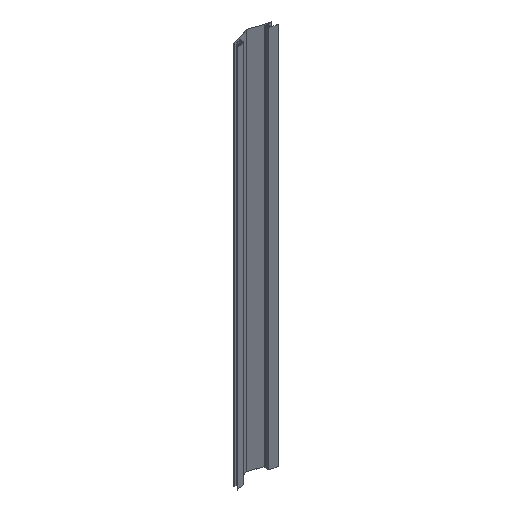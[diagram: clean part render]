
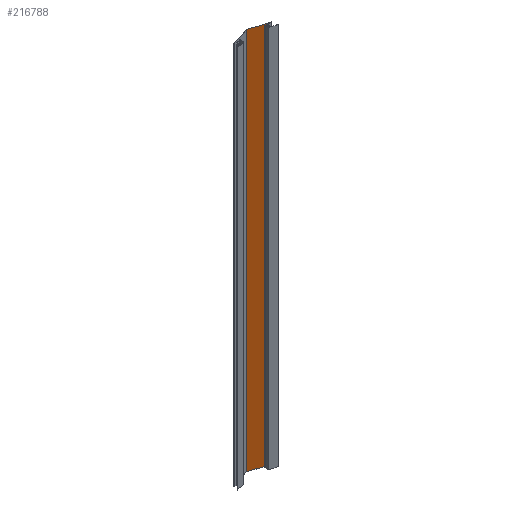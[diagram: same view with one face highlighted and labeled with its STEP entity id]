
A CAD part, isometric view. The second image highlights one B-rep face of the part: STEP entity #216788.
In plain terms, the highlighted planar face has unit normal (-0.297, -0.955, 0).
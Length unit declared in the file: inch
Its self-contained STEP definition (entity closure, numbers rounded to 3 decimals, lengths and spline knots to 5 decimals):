
#8270 = CARTESIAN_POINT ( 'NONE',  ( 5.87643, -1.8482, 0.71674 ) ) ;
#11255 = EDGE_CURVE ( 'NONE', #78496, #134539, #137980, .T. ) ;
#25030 = LINE ( 'NONE', #192481, #31142 ) ;
#31142 = VECTOR ( 'NONE', #95210, 39.37008 ) ;
#33931 = ORIENTED_EDGE ( 'NONE', *, *, #11255, .T. ) ;
#35636 = CARTESIAN_POINT ( 'NONE',  ( 5.87643, -1.8482, 125. ) ) ;
#53893 = VECTOR ( 'NONE', #152402, 39.37008 ) ;
#63294 = CARTESIAN_POINT ( 'NONE',  ( 0.00341, -0.02201, 0.71674 ) ) ;
#65936 = DIRECTION ( 'NONE',  ( -0.297, -0.955, 0. ) ) ;
#73755 = EDGE_CURVE ( 'NONE', #229869, #137888, #197331, .T. ) ;
#73838 = VECTOR ( 'NONE', #149891, 39.37008 ) ;
#78496 = VERTEX_POINT ( 'NONE', #209352 ) ;
#92530 = VECTOR ( 'NONE', #238179, 39.37008 ) ;
#95210 = DIRECTION ( 'NONE',  ( 0.955, -0.297, 0. ) ) ;
#98645 = ORIENTED_EDGE ( 'NONE', *, *, #157187, .F. ) ;
#110549 = CARTESIAN_POINT ( 'NONE',  ( 5.87643, -1.8482, 120.71674 ) ) ;
#134539 = VERTEX_POINT ( 'NONE', #236266 ) ;
#137888 = VERTEX_POINT ( 'NONE', #8270 ) ;
#137980 = LINE ( 'NONE', #227658, #73838 ) ;
#143452 = PLANE ( 'NONE',  #163732 ) ;
#149891 = DIRECTION ( 'NONE',  ( 0., 0., -1. ) ) ;
#152402 = DIRECTION ( 'NONE',  ( 0., 0., -1. ) ) ;
#156527 = EDGE_CURVE ( 'NONE', #137888, #134539, #242191, .T. ) ;
#157187 = EDGE_CURVE ( 'NONE', #78496, #229869, #25030, .T. ) ;
#163732 = AXIS2_PLACEMENT_3D ( 'NONE', #182815, #65936, #202371 ) ;
#169396 = EDGE_LOOP ( 'NONE', ( #98645, #33931, #218620, #179723 ) ) ;
#179723 = ORIENTED_EDGE ( 'NONE', *, *, #73755, .F. ) ;
#182815 = CARTESIAN_POINT ( 'NONE',  ( 0.00341, -0.02201, 125. ) ) ;
#192481 = CARTESIAN_POINT ( 'NONE',  ( 0.00341, -0.02201, 120.71674 ) ) ;
#197331 = LINE ( 'NONE', #35636, #53893 ) ;
#202371 = DIRECTION ( 'NONE',  ( 0.955, -0.297, 0. ) ) ;
#209352 = CARTESIAN_POINT ( 'NONE',  ( 0.00341, -0.02201, 120.71674 ) ) ;
#216788 = ADVANCED_FACE ( 'NONE', ( #252977 ), #143452, .T. ) ;
#218620 = ORIENTED_EDGE ( 'NONE', *, *, #156527, .F. ) ;
#227658 = CARTESIAN_POINT ( 'NONE',  ( 0.00341, -0.02201, 125. ) ) ;
#229869 = VERTEX_POINT ( 'NONE', #110549 ) ;
#236266 = CARTESIAN_POINT ( 'NONE',  ( 0.00341, -0.02201, 0.71674 ) ) ;
#238179 = DIRECTION ( 'NONE',  ( -0.955, 0.297, 0. ) ) ;
#242191 = LINE ( 'NONE', #63294, #92530 ) ;
#252977 = FACE_OUTER_BOUND ( 'NONE', #169396, .T. ) ;
